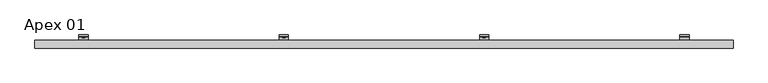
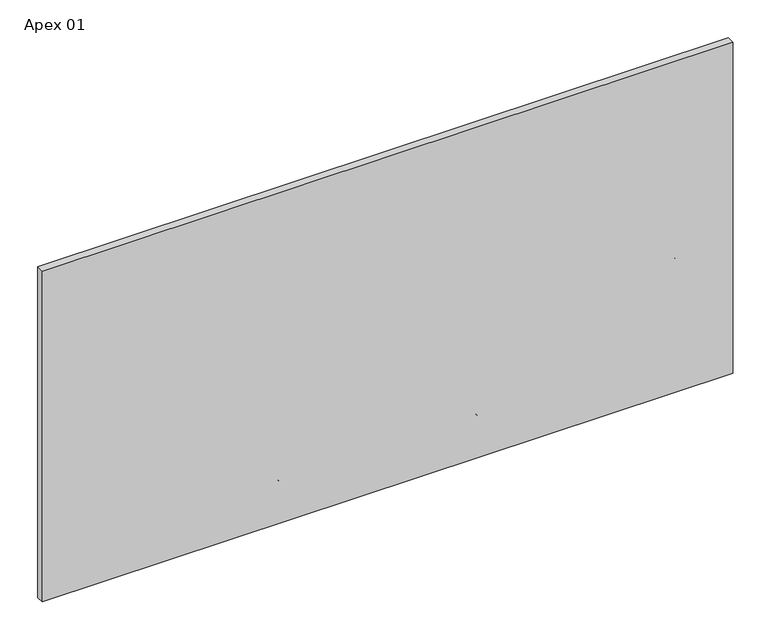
"""IFC4 building model written with IfcOpenShell, lengths in millimetres: plate geometry, Single-Panel-Perforated-Amico_Architectural : Apex 01."""

from ifc_helpers import new_model, si_unit, point, frame, frame_2d, origin, place, context, project, spatial, polyline, circle_curve, trimmed, segment, composite_curve, outline, extrude, source, transform, mapped, element, save
from ifc_brep_helpers import plane_surface, cylinder_surface, revolved_surface, advanced_brep


def apex_01_1a7e8140(model_context):
    return source(origin(), model_context, "Body", "SolidModel", [
        advanced_brep(
        [(1238.25, -47.625, 561.2468868), (1238.25, -51.2819443, 553.5848544), (1238.25, -89.5163624, 526.8128266), (1238.25, -92.9330442, 530.2295084), (1238.25, -54.3526876, 557.2437649), (1238.25, -52.4002, 561.2469577), (1238.25, -52.4002, 595.439572), (1238.25, -47.625, 595.439572), (1276.35, -47.625, 561.2468868), (1276.35, -47.625, 595.439572), (1276.35, -52.4002, 595.439572), (1276.35, -52.4002, 561.2469577), (1276.35, -54.3526876, 557.2437649), (1276.35, -92.9330442, 530.2295084), (1276.35, -89.5163624, 526.8128266), (1276.35, -51.2819443, 553.5848544), (1264.0411889, -52.4002, 581.3943558), (1264.0411889, -52.4002, 575.0443558), (1247.8133287, -52.4002, 575.0443558), (1247.8133287, -52.4002, 581.3943558), (1264.0411889, -47.625, 575.0443558), (1264.0411889, -47.625, 581.3943558), (1247.8133287, -47.625, 581.3943558), (1247.8133287, -47.625, 575.0443558)],
        [
            (0, 1, circle_curve(frame((1238.25, -57.4802202, 561.2468868), z_axis=(-1.0, 0.0, 0.0), x_axis=(0.0, -1.0, 0.0)), 9.8552202)),
            (1, 2),
            (2, 3),
            (3, 4),
            (4, 5, circle_curve(frame((1238.25, -57.4803246, 561.2469577), z_axis=(1.0, 0.0, 0.0), x_axis=(0.0, -1.0, 0.0)), 5.0801246)),
            (5, 6),
            (6, 7),
            (7, 0),
            (8, 9),
            (9, 10),
            (10, 11),
            (11, 12, circle_curve(frame((1276.35, -57.4803246, 561.2469577), z_axis=(-1.0, 0.0, 0.0), x_axis=(0.0, -1.0, 0.0)), 5.0801246)),
            (12, 13),
            (13, 14),
            (14, 15),
            (15, 8, circle_curve(frame((1276.35, -57.4802202, 561.2468868), z_axis=(1.0, 0.0, 0.0), x_axis=(0.0, -1.0, 0.0)), 9.8552202)),
            (4, 12),
            (11, 5),
            (10, 6),
            (16, 17, circle_curve(frame((1264.0411889, -52.4002, 578.2193558), z_axis=(0.0, 1.0, 0.0), x_axis=(0.0, 0.0, -1.0)), 3.175)),
            (17, 18),
            (18, 19, circle_curve(frame((1247.8133287, -52.4002, 578.2193558), z_axis=(0.0, 1.0, 0.0), x_axis=(0.0, 0.0, -1.0)), 3.175)),
            (19, 16),
            (9, 7),
            (8, 0),
            (20, 21, circle_curve(frame((1264.0411889, -47.625, 578.2193558), z_axis=(0.0, -1.0, 0.0), x_axis=(0.0, 0.0, -1.0)), 3.175)),
            (21, 22),
            (22, 23, circle_curve(frame((1247.8133287, -47.625, 578.2193558), z_axis=(0.0, -1.0, 0.0), x_axis=(0.0, 0.0, -1.0)), 3.175)),
            (23, 20),
            (15, 1),
            (20, 17),
            (16, 21),
            (19, 22),
            (18, 23),
            (14, 2),
            (13, 3),
        ],
        [
            plane_surface(frame((1238.25, -67.3354404, 561.2468868), z_axis=(-1.0, 0.0, 0.0), x_axis=(0.0, 0.0, 1.0))),
            plane_surface(frame((1276.35, -67.3354404, 561.2468868), z_axis=(1.0, 0.0, 0.0), x_axis=(0.0, 0.0, -1.0))),
            revolved_surface(polyline([(1276.35, -62.5604492, 561.2469577), (1238.25, -62.5604492, 561.2469577)]), (1276.35, -57.4803246, 561.2469577), (1.0, 0.0, 0.0)),
            plane_surface(frame((1238.25, -52.4002, 561.2469577), z_axis=(0.0, -1.0, 0.0), x_axis=(1.0, 0.0, 0.0))),
            plane_surface(frame((1238.25, -52.4002, 595.439572), z_axis=(0.0, 0.0, 1.0), x_axis=(1.0, 0.0, 0.0))),
            plane_surface(frame((1238.25, -47.625, 595.439572), z_axis=(0.0, 1.0, 6.99569853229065e-12), x_axis=(1.0, 0.0, 0.0))),
            cylinder_surface(frame((1276.35, -57.4802202, 561.2468868), z_axis=(-1.0, 0.0, 0.0), x_axis=(0.0, -1.0, 0.0)), 9.8552202),
            revolved_surface(polyline([(1264.0411889, -52.4002, 575.0443558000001), (1264.0411889, -47.625, 575.0443558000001)]), (1264.0411889, -25.6669948, 578.2193558), (0.0, -1.0, 0.0)),
            plane_surface(frame((1264.0411889, -86.677982, 581.3943558), z_axis=(0.0, 0.0, -1.0), x_axis=(0.0, 1.0, 0.0))),
            revolved_surface(polyline([(1247.8133287, -52.4002, 575.0443558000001), (1247.8133287, -47.625, 575.0443558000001)]), (1247.8133287, -25.6669948, 578.2193558), (0.0, -1.0, 0.0)),
            plane_surface(frame((1247.8133287, -86.677982, 575.0443558), z_axis=(-2.7237733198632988e-11, 0.0, 1.0), x_axis=(0.0, 1.0, 0.0))),
            plane_surface(frame((1238.25, -51.2819443, 553.5848544), z_axis=(0.0, 0.5735764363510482, -0.8191520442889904), x_axis=(1.0, 0.0, 0.0))),
            plane_surface(frame((1238.25, -89.5163624, 526.8128266), z_axis=(0.0, -0.7071067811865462, -0.7071067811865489), x_axis=(1.0, 0.0, 0.0))),
            plane_surface(frame((1238.25, -92.9330442, 530.2295084), z_axis=(0.0, -0.5735764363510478, 0.8191520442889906), x_axis=(1.0, 0.0, 0.0))),
        ],
        [
            (0, [[1, 2, 3, 4, 5, 6, 7, 8]]),
            (1, [[9, 10, 11, 12, 13, 14, 15, 16]]),
            (2, [[-5, 17, -12, 18]]),
            (3, [[-6, -18, -11, 19], [20, 21, 22, 23]]),
            (4, [[-7, -19, -10, 24]]),
            (5, [[-8, -24, -9, 25], [26, 27, 28, 29]]),
            (6, [[-1, -25, -16, 30]]),
            (7, [[31, -20, 32, -26]]),
            (8, [[-32, -23, 33, -27]]),
            (9, [[-33, -22, 34, -28]]),
            (10, [[-31, -29, -34, -21]]),
            (11, [[-2, -30, -15, 35]]),
            (12, [[-3, -35, -14, 36]]),
            (13, [[-4, -36, -13, -17]]),
        ],
    ),
        extrude(outline(polyline([(578.3961989, 414.0820034), (574.0504864, 416.5910017), (574.0504864, 421.6089983), (578.3961989, 424.1179966), (582.7419114, 421.6089983), (582.7419114, 416.5910017), (578.3961989, 414.0820034)])), frame((0.0, -58.7607779, 0.0), z_axis=(0.0, 1.0, 0.0), x_axis=(0.0, 0.0, 1.0)), (0.0, 0.0, 1.0), 11.1357779),
        extrude(outline(composite_curve([segment(trimmed(circle_curve(frame_2d((578.4895059, 419.1)), 6.35), [point((578.4895059, 425.45))], [point((578.4895059, 412.75))], False, "CARTESIAN"), True, "CONTINUOUS"), segment(trimmed(circle_curve(frame_2d((578.4895059, 419.1)), 6.35), [point((578.4895059, 412.75))], [point((578.4895059, 425.45))], False, "CARTESIAN"), True, "CONTINUOUS")], self_intersect=False)), frame((0.0, -57.0817743, 0.0), z_axis=(0.0, 1.0, 0.0), x_axis=(0.0, 0.0, 1.0)), (0.0, 0.0, 1.0), 9.4567743),
        advanced_brep(
        [(400.05, -47.625, 561.2468868), (400.05, -51.2819443, 553.5848544), (400.05, -89.5163624, 526.8128266), (400.05, -92.9330442, 530.2295084), (400.05, -54.3526876, 557.2437649), (400.05, -52.4002, 561.2469577), (400.05, -52.4002, 595.439572), (400.05, -47.625, 595.439572), (438.15, -47.625, 561.2468868), (438.15, -47.625, 595.439572), (438.15, -52.4002, 595.439572), (438.15, -52.4002, 561.2469577), (438.15, -54.3526876, 557.2437649), (438.15, -92.9330442, 530.2295084), (438.15, -89.5163624, 526.8128266), (438.15, -51.2819443, 553.5848544), (425.8411889, -52.4002, 581.3943558), (425.8411889, -52.4002, 575.0443558), (409.6133287, -52.4002, 575.0443558), (409.6133287, -52.4002, 581.3943558), (425.8411889, -47.625, 575.0443558), (425.8411889, -47.625, 581.3943558), (409.6133287, -47.625, 581.3943558), (409.6133287, -47.625, 575.0443558)],
        [
            (0, 1, circle_curve(frame((400.05, -57.4802202, 561.2468868), z_axis=(-1.0, 0.0, 0.0), x_axis=(0.0, -1.0, 0.0)), 9.8552202)),
            (1, 2),
            (2, 3),
            (3, 4),
            (4, 5, circle_curve(frame((400.05, -57.4803246, 561.2469577), z_axis=(1.0, 0.0, 0.0), x_axis=(0.0, -1.0, 0.0)), 5.0801246)),
            (5, 6),
            (6, 7),
            (7, 0),
            (8, 9),
            (9, 10),
            (10, 11),
            (11, 12, circle_curve(frame((438.15, -57.4803246, 561.2469577), z_axis=(-1.0, 0.0, 0.0), x_axis=(0.0, -1.0, 0.0)), 5.0801246)),
            (12, 13),
            (13, 14),
            (14, 15),
            (15, 8, circle_curve(frame((438.15, -57.4802202, 561.2468868), z_axis=(1.0, 0.0, 0.0), x_axis=(0.0, -1.0, 0.0)), 9.8552202)),
            (4, 12),
            (11, 5),
            (10, 6),
            (16, 17, circle_curve(frame((425.8411889, -52.4002, 578.2193558), z_axis=(0.0, 1.0, 0.0), x_axis=(0.0, 0.0, -1.0)), 3.175)),
            (17, 18),
            (18, 19, circle_curve(frame((409.6133287, -52.4002, 578.2193558), z_axis=(0.0, 1.0, 0.0), x_axis=(0.0, 0.0, -1.0)), 3.175)),
            (19, 16),
            (9, 7),
            (8, 0),
            (20, 21, circle_curve(frame((425.8411889, -47.625, 578.2193558), z_axis=(0.0, -1.0, 0.0), x_axis=(0.0, 0.0, -1.0)), 3.175)),
            (21, 22),
            (22, 23, circle_curve(frame((409.6133287, -47.625, 578.2193558), z_axis=(0.0, -1.0, 0.0), x_axis=(0.0, 0.0, -1.0)), 3.175)),
            (23, 20),
            (15, 1),
            (20, 17),
            (16, 21),
            (19, 22),
            (18, 23),
            (14, 2),
            (13, 3),
        ],
        [
            plane_surface(frame((400.05, -67.3354404, 561.2468868), z_axis=(-1.0, 0.0, 0.0), x_axis=(0.0, 0.0, 1.0))),
            plane_surface(frame((438.15, -67.3354404, 561.2468868), z_axis=(1.0, 0.0, 0.0), x_axis=(0.0, 0.0, -1.0))),
            revolved_surface(polyline([(438.15, -62.5604492, 561.2469577), (400.05, -62.5604492, 561.2469577)]), (438.15, -57.4803246, 561.2469577), (1.0, 0.0, 0.0)),
            plane_surface(frame((400.05, -52.4002, 561.2469577), z_axis=(0.0, -1.0, 0.0), x_axis=(1.0, 0.0, 0.0))),
            plane_surface(frame((400.05, -52.4002, 595.439572), z_axis=(0.0, 0.0, 1.0), x_axis=(1.0, 0.0, 0.0))),
            plane_surface(frame((400.05, -47.625, 595.439572), z_axis=(0.0, 1.0, 6.99569853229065e-12), x_axis=(1.0, 0.0, 0.0))),
            cylinder_surface(frame((438.15, -57.4802202, 561.2468868), z_axis=(-1.0, 0.0, 0.0), x_axis=(0.0, -1.0, 0.0)), 9.8552202),
            revolved_surface(polyline([(425.8411889, -52.4002, 575.0443558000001), (425.8411889, -47.625, 575.0443558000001)]), (425.8411889, -25.6669948, 578.2193558), (0.0, -1.0, 0.0)),
            plane_surface(frame((425.8411889, -86.677982, 581.3943558), z_axis=(0.0, 0.0, -1.0), x_axis=(0.0, 1.0, 0.0))),
            revolved_surface(polyline([(409.6133287, -52.4002, 575.0443558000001), (409.6133287, -47.625, 575.0443558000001)]), (409.6133287, -25.6669948, 578.2193558), (0.0, -1.0, 0.0)),
            plane_surface(frame((409.6133287, -86.677982, 575.0443558), z_axis=(-2.7237733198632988e-11, 0.0, 1.0), x_axis=(0.0, 1.0, 0.0))),
            plane_surface(frame((400.05, -51.2819443, 553.5848544), z_axis=(0.0, 0.5735764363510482, -0.8191520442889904), x_axis=(1.0, 0.0, 0.0))),
            plane_surface(frame((400.05, -89.5163624, 526.8128266), z_axis=(0.0, -0.7071067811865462, -0.7071067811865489), x_axis=(1.0, 0.0, 0.0))),
            plane_surface(frame((400.05, -92.9330442, 530.2295084), z_axis=(0.0, -0.5735764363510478, 0.8191520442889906), x_axis=(1.0, 0.0, 0.0))),
        ],
        [
            (0, [[1, 2, 3, 4, 5, 6, 7, 8]]),
            (1, [[9, 10, 11, 12, 13, 14, 15, 16]]),
            (2, [[-5, 17, -12, 18]]),
            (3, [[-6, -18, -11, 19], [20, 21, 22, 23]]),
            (4, [[-7, -19, -10, 24]]),
            (5, [[-8, -24, -9, 25], [26, 27, 28, 29]]),
            (6, [[-1, -25, -16, 30]]),
            (7, [[31, -20, 32, -26]]),
            (8, [[-32, -23, 33, -27]]),
            (9, [[-33, -22, 34, -28]]),
            (10, [[-31, -29, -34, -21]]),
            (11, [[-2, -30, -15, 35]]),
            (12, [[-3, -35, -14, 36]]),
            (13, [[-4, -36, -13, -17]]),
        ],
    ),
        extrude(outline(polyline([(578.3961989, -424.1179966), (574.0504864, -421.6089983), (574.0504864, -416.5910017), (578.3961989, -414.0820034), (582.7419114, -416.5910017), (582.7419114, -421.6089983), (578.3961989, -424.1179966)])), frame((0.0, -58.7607779, 0.0), z_axis=(0.0, 1.0, 0.0), x_axis=(0.0, 0.0, 1.0)), (0.0, 0.0, 1.0), 11.1357779),
        extrude(outline(composite_curve([segment(trimmed(circle_curve(frame_2d((578.4895059, -419.1)), 6.35), [point((578.4895059, -412.75))], [point((578.4895059, -425.45))], False, "CARTESIAN"), True, "CONTINUOUS"), segment(trimmed(circle_curve(frame_2d((578.4895059, -419.1)), 6.35), [point((578.4895059, -425.45))], [point((578.4895059, -412.75))], False, "CARTESIAN"), True, "CONTINUOUS")], self_intersect=False)), frame((0.0, -57.0817743, 0.0), z_axis=(0.0, 1.0, 0.0), x_axis=(0.0, 0.0, 1.0)), (0.0, 0.0, 1.0), 9.4567743),
        advanced_brep(
        [(-438.15, -47.625, 561.2468868), (-438.15, -51.2819443, 553.5848544), (-438.15, -89.5163624, 526.8128266), (-438.15, -92.9330442, 530.2295084), (-438.15, -54.3526876, 557.2437649), (-438.15, -52.4002, 561.2469577), (-438.15, -52.4002, 595.439572), (-438.15, -47.625, 595.439572), (-400.05, -47.625, 561.2468868), (-400.05, -47.625, 595.439572), (-400.05, -52.4002, 595.439572), (-400.05, -52.4002, 561.2469577), (-400.05, -54.3526876, 557.2437649), (-400.05, -92.9330442, 530.2295084), (-400.05, -89.5163624, 526.8128266), (-400.05, -51.2819443, 553.5848544), (-412.3588111, -52.4002, 581.3943558), (-412.3588111, -52.4002, 575.0443558), (-428.5866713, -52.4002, 575.0443558), (-428.5866713, -52.4002, 581.3943558), (-412.3588111, -47.625, 575.0443558), (-412.3588111, -47.625, 581.3943558), (-428.5866713, -47.625, 581.3943558), (-428.5866713, -47.625, 575.0443558)],
        [
            (0, 1, circle_curve(frame((-438.15, -57.4802202, 561.2468868), z_axis=(-1.0, 0.0, 0.0), x_axis=(0.0, -1.0, 0.0)), 9.8552202)),
            (1, 2),
            (2, 3),
            (3, 4),
            (4, 5, circle_curve(frame((-438.15, -57.4803246, 561.2469577), z_axis=(1.0, 0.0, 0.0), x_axis=(0.0, -1.0, 0.0)), 5.0801246)),
            (5, 6),
            (6, 7),
            (7, 0),
            (8, 9),
            (9, 10),
            (10, 11),
            (11, 12, circle_curve(frame((-400.05, -57.4803246, 561.2469577), z_axis=(-1.0, 0.0, 0.0), x_axis=(0.0, -1.0, 0.0)), 5.0801246)),
            (12, 13),
            (13, 14),
            (14, 15),
            (15, 8, circle_curve(frame((-400.05, -57.4802202, 561.2468868), z_axis=(1.0, 0.0, 0.0), x_axis=(0.0, -1.0, 0.0)), 9.8552202)),
            (4, 12),
            (11, 5),
            (10, 6),
            (16, 17, circle_curve(frame((-412.3588111, -52.4002, 578.2193558), z_axis=(0.0, 1.0, 0.0), x_axis=(0.0, 0.0, -1.0)), 3.175)),
            (17, 18),
            (18, 19, circle_curve(frame((-428.5866713, -52.4002, 578.2193558), z_axis=(0.0, 1.0, 0.0), x_axis=(0.0, 0.0, -1.0)), 3.175)),
            (19, 16),
            (9, 7),
            (8, 0),
            (20, 21, circle_curve(frame((-412.3588111, -47.625, 578.2193558), z_axis=(0.0, -1.0, 0.0), x_axis=(0.0, 0.0, -1.0)), 3.175)),
            (21, 22),
            (22, 23, circle_curve(frame((-428.5866713, -47.625, 578.2193558), z_axis=(0.0, -1.0, 0.0), x_axis=(0.0, 0.0, -1.0)), 3.175)),
            (23, 20),
            (15, 1),
            (20, 17),
            (16, 21),
            (19, 22),
            (18, 23),
            (14, 2),
            (13, 3),
        ],
        [
            plane_surface(frame((-438.15, -67.3354404, 561.2468868), z_axis=(-1.0, 0.0, 0.0), x_axis=(0.0, 0.0, 1.0))),
            plane_surface(frame((-400.05, -67.3354404, 561.2468868), z_axis=(1.0, 0.0, 0.0), x_axis=(0.0, 0.0, -1.0))),
            revolved_surface(polyline([(-400.05, -62.5604492, 561.2469577), (-438.15, -62.5604492, 561.2469577)]), (-400.05, -57.4803246, 561.2469577), (1.0, 0.0, 0.0)),
            plane_surface(frame((-438.15, -52.4002, 561.2469577), z_axis=(0.0, -1.0, 0.0), x_axis=(1.0, 0.0, 0.0))),
            plane_surface(frame((-438.15, -52.4002, 595.439572), z_axis=(0.0, 0.0, 1.0), x_axis=(1.0, 0.0, 0.0))),
            plane_surface(frame((-438.15, -47.625, 595.439572), z_axis=(0.0, 1.0, 6.99569853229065e-12), x_axis=(1.0, 0.0, 0.0))),
            cylinder_surface(frame((-400.05, -57.4802202, 561.2468868), z_axis=(-1.0, 0.0, 0.0), x_axis=(0.0, -1.0, 0.0)), 9.8552202),
            revolved_surface(polyline([(-412.3588111, -52.4002, 575.0443558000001), (-412.3588111, -47.625, 575.0443558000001)]), (-412.3588111, -25.6669948, 578.2193558), (0.0, -1.0, 0.0)),
            plane_surface(frame((-412.3588111, -86.677982, 581.3943558), z_axis=(0.0, 0.0, -1.0), x_axis=(0.0, 1.0, 0.0))),
            revolved_surface(polyline([(-428.5866713, -52.4002, 575.0443558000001), (-428.5866713, -47.625, 575.0443558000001)]), (-428.5866713, -25.6669948, 578.2193558), (0.0, -1.0, 0.0)),
            plane_surface(frame((-428.5866713, -86.677982, 575.0443558), z_axis=(-2.7237733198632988e-11, 0.0, 1.0), x_axis=(0.0, 1.0, 0.0))),
            plane_surface(frame((-438.15, -51.2819443, 553.5848544), z_axis=(0.0, 0.5735764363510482, -0.8191520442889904), x_axis=(1.0, 0.0, 0.0))),
            plane_surface(frame((-438.15, -89.5163624, 526.8128266), z_axis=(0.0, -0.7071067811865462, -0.7071067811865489), x_axis=(1.0, 0.0, 0.0))),
            plane_surface(frame((-438.15, -92.9330442, 530.2295084), z_axis=(0.0, -0.5735764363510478, 0.8191520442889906), x_axis=(1.0, 0.0, 0.0))),
        ],
        [
            (0, [[1, 2, 3, 4, 5, 6, 7, 8]]),
            (1, [[9, 10, 11, 12, 13, 14, 15, 16]]),
            (2, [[-5, 17, -12, 18]]),
            (3, [[-6, -18, -11, 19], [20, 21, 22, 23]]),
            (4, [[-7, -19, -10, 24]]),
            (5, [[-8, -24, -9, 25], [26, 27, 28, 29]]),
            (6, [[-1, -25, -16, 30]]),
            (7, [[31, -20, 32, -26]]),
            (8, [[-32, -23, 33, -27]]),
            (9, [[-33, -22, 34, -28]]),
            (10, [[-31, -29, -34, -21]]),
            (11, [[-2, -30, -15, 35]]),
            (12, [[-3, -35, -14, 36]]),
            (13, [[-4, -36, -13, -17]]),
        ],
    ),
        extrude(outline(polyline([(578.3961989, -1262.3179966), (574.0504864, -1259.8089983), (574.0504864, -1254.7910017), (578.3961989, -1252.2820034), (582.7419114, -1254.7910017), (582.7419114, -1259.8089983), (578.3961989, -1262.3179966)])), frame((0.0, -58.7607779, 0.0), z_axis=(0.0, 1.0, 0.0), x_axis=(0.0, 0.0, 1.0)), (0.0, 0.0, 1.0), 11.1357779),
        extrude(outline(composite_curve([segment(trimmed(circle_curve(frame_2d((578.4895059, -1257.3)), 6.35), [point((578.4895059, -1250.95))], [point((578.4895059, -1263.65))], False, "CARTESIAN"), True, "CONTINUOUS"), segment(trimmed(circle_curve(frame_2d((578.4895059, -1257.3)), 6.35), [point((578.4895059, -1263.65))], [point((578.4895059, -1250.95))], False, "CARTESIAN"), True, "CONTINUOUS")], self_intersect=False)), frame((0.0, -57.0817743, 0.0), z_axis=(0.0, 1.0, 0.0), x_axis=(0.0, 0.0, 1.0)), (0.0, 0.0, 1.0), 9.4567743),
        advanced_brep(
        [(-1276.35, -47.625, 561.2468868), (-1276.35, -51.2819443, 553.5848544), (-1276.35, -89.5163624, 526.8128266), (-1276.35, -92.9330442, 530.2295084), (-1276.35, -54.3526876, 557.2437649), (-1276.35, -52.4002, 561.2469577), (-1276.35, -52.4002, 595.439572), (-1276.35, -47.625, 595.439572), (-1238.25, -47.625, 561.2468868), (-1238.25, -47.625, 595.439572), (-1238.25, -52.4002, 595.439572), (-1238.25, -52.4002, 561.2469577), (-1238.25, -54.3526876, 557.2437649), (-1238.25, -92.9330442, 530.2295084), (-1238.25, -89.5163624, 526.8128266), (-1238.25, -51.2819443, 553.5848544), (-1250.5588111, -52.4002, 581.3943558), (-1250.5588111, -52.4002, 575.0443558), (-1266.7866713, -52.4002, 575.0443558), (-1266.7866713, -52.4002, 581.3943558), (-1250.5588111, -47.625, 575.0443558), (-1250.5588111, -47.625, 581.3943558), (-1266.7866713, -47.625, 581.3943558), (-1266.7866713, -47.625, 575.0443558)],
        [
            (0, 1, circle_curve(frame((-1276.35, -57.4802202, 561.2468868), z_axis=(-1.0, 0.0, 0.0), x_axis=(0.0, -1.0, 0.0)), 9.8552202)),
            (1, 2),
            (2, 3),
            (3, 4),
            (4, 5, circle_curve(frame((-1276.35, -57.4803246, 561.2469577), z_axis=(1.0, 0.0, 0.0), x_axis=(0.0, -1.0, 0.0)), 5.0801246)),
            (5, 6),
            (6, 7),
            (7, 0),
            (8, 9),
            (9, 10),
            (10, 11),
            (11, 12, circle_curve(frame((-1238.25, -57.4803246, 561.2469577), z_axis=(-1.0, 0.0, 0.0), x_axis=(0.0, -1.0, 0.0)), 5.0801246)),
            (12, 13),
            (13, 14),
            (14, 15),
            (15, 8, circle_curve(frame((-1238.25, -57.4802202, 561.2468868), z_axis=(1.0, 0.0, 0.0), x_axis=(0.0, -1.0, 0.0)), 9.8552202)),
            (4, 12),
            (11, 5),
            (10, 6),
            (16, 17, circle_curve(frame((-1250.5588111, -52.4002, 578.2193558), z_axis=(0.0, 1.0, 0.0), x_axis=(0.0, 0.0, -1.0)), 3.175)),
            (17, 18),
            (18, 19, circle_curve(frame((-1266.7866713, -52.4002, 578.2193558), z_axis=(0.0, 1.0, 0.0), x_axis=(0.0, 0.0, -1.0)), 3.175)),
            (19, 16),
            (9, 7),
            (8, 0),
            (20, 21, circle_curve(frame((-1250.5588111, -47.625, 578.2193558), z_axis=(0.0, -1.0, 0.0), x_axis=(0.0, 0.0, -1.0)), 3.175)),
            (21, 22),
            (22, 23, circle_curve(frame((-1266.7866713, -47.625, 578.2193558), z_axis=(0.0, -1.0, 0.0), x_axis=(0.0, 0.0, -1.0)), 3.175)),
            (23, 20),
            (15, 1),
            (20, 17),
            (16, 21),
            (19, 22),
            (18, 23),
            (14, 2),
            (13, 3),
        ],
        [
            plane_surface(frame((-1276.35, -67.3354404, 561.2468868), z_axis=(-1.0, 0.0, 0.0), x_axis=(0.0, 0.0, 1.0))),
            plane_surface(frame((-1238.25, -67.3354404, 561.2468868), z_axis=(1.0, 0.0, 0.0), x_axis=(0.0, 0.0, -1.0))),
            revolved_surface(polyline([(-1238.25, -62.5604492, 561.2469577), (-1276.35, -62.5604492, 561.2469577)]), (-1238.25, -57.4803246, 561.2469577), (1.0, 0.0, 0.0)),
            plane_surface(frame((-1276.35, -52.4002, 561.2469577), z_axis=(0.0, -1.0, 0.0), x_axis=(1.0, 0.0, 0.0))),
            plane_surface(frame((-1276.35, -52.4002, 595.439572), z_axis=(0.0, 0.0, 1.0), x_axis=(1.0, 0.0, 0.0))),
            plane_surface(frame((-1276.35, -47.625, 595.439572), z_axis=(0.0, 1.0, 6.99569853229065e-12), x_axis=(1.0, 0.0, 0.0))),
            cylinder_surface(frame((-1238.25, -57.4802202, 561.2468868), z_axis=(-1.0, 0.0, 0.0), x_axis=(0.0, -1.0, 0.0)), 9.8552202),
            revolved_surface(polyline([(-1250.5588111, -52.4002, 575.0443558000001), (-1250.5588111, -47.625, 575.0443558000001)]), (-1250.5588111, -25.6669948, 578.2193558), (0.0, -1.0, 0.0)),
            plane_surface(frame((-1250.5588111, -86.677982, 581.3943558), z_axis=(0.0, 0.0, -1.0), x_axis=(0.0, 1.0, 0.0))),
            revolved_surface(polyline([(-1266.7866713, -52.4002, 575.0443558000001), (-1266.7866713, -47.625, 575.0443558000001)]), (-1266.7866713, -25.6669948, 578.2193558), (0.0, -1.0, 0.0)),
            plane_surface(frame((-1266.7866713, -86.677982, 575.0443558), z_axis=(-2.7237733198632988e-11, 0.0, 1.0), x_axis=(0.0, 1.0, 0.0))),
            plane_surface(frame((-1276.35, -51.2819443, 553.5848544), z_axis=(0.0, 0.5735764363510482, -0.8191520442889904), x_axis=(1.0, 0.0, 0.0))),
            plane_surface(frame((-1276.35, -89.5163624, 526.8128266), z_axis=(0.0, -0.7071067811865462, -0.7071067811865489), x_axis=(1.0, 0.0, 0.0))),
            plane_surface(frame((-1276.35, -92.9330442, 530.2295084), z_axis=(0.0, -0.5735764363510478, 0.8191520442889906), x_axis=(1.0, 0.0, 0.0))),
        ],
        [
            (0, [[1, 2, 3, 4, 5, 6, 7, 8]]),
            (1, [[9, 10, 11, 12, 13, 14, 15, 16]]),
            (2, [[-5, 17, -12, 18]]),
            (3, [[-6, -18, -11, 19], [20, 21, 22, 23]]),
            (4, [[-7, -19, -10, 24]]),
            (5, [[-8, -24, -9, 25], [26, 27, 28, 29]]),
            (6, [[-1, -25, -16, 30]]),
            (7, [[31, -20, 32, -26]]),
            (8, [[-32, -23, 33, -27]]),
            (9, [[-33, -22, 34, -28]]),
            (10, [[-31, -29, -34, -21]]),
            (11, [[-2, -30, -15, 35]]),
            (12, [[-3, -35, -14, 36]]),
            (13, [[-4, -36, -13, -17]]),
        ],
    ),
        extrude(outline(polyline([(169.8795323, 1252.2820034), (165.5338197, 1254.7910017), (165.5338197, 1259.8089983), (169.8795323, 1262.3179966), (174.2252448, 1259.8089983), (174.2252448, 1254.7910017), (169.8795323, 1252.2820034)])), frame((0.0, -58.7607779, 0.0), z_axis=(0.0, 1.0, 0.0), x_axis=(0.0, 0.0, 1.0)), (0.0, 0.0, 1.0), 11.1357779),
        extrude(outline(composite_curve([segment(trimmed(circle_curve(frame_2d((169.9728392, 1257.3)), 6.35), [point((169.9728392, 1263.65))], [point((169.9728392, 1250.95))], False, "CARTESIAN"), True, "CONTINUOUS"), segment(trimmed(circle_curve(frame_2d((169.9728392, 1257.3)), 6.35), [point((169.9728392, 1250.95))], [point((169.9728392, 1263.65))], False, "CARTESIAN"), True, "CONTINUOUS")], self_intersect=False)), frame((0.0, -57.0817743, 0.0), z_axis=(0.0, 1.0, 0.0), x_axis=(0.0, 0.0, 1.0)), (0.0, 0.0, 1.0), 9.4567743),
        advanced_brep(
        [(1238.25, -47.625, 152.7302202), (1238.25, -51.2819443, 145.0681877), (1238.25, -89.5163624, 118.29616), (1238.25, -92.9330442, 121.7128418), (1238.25, -54.3526876, 148.7270983), (1238.25, -52.4002, 152.7302911), (1238.25, -52.4002, 186.9229053), (1238.25, -47.625, 186.9229053), (1276.35, -47.625, 152.7302202), (1276.35, -47.625, 186.9229053), (1276.35, -52.4002, 186.9229053), (1276.35, -52.4002, 152.7302911), (1276.35, -54.3526876, 148.7270983), (1276.35, -92.9330442, 121.7128418), (1276.35, -89.5163624, 118.29616), (1276.35, -51.2819443, 145.0681877), (1264.0411889, -52.4002, 172.8776891), (1264.0411889, -52.4002, 166.5276891), (1247.8133287, -52.4002, 166.5276891), (1247.8133287, -52.4002, 172.8776891), (1264.0411889, -47.625, 166.5276891), (1264.0411889, -47.625, 172.8776891), (1247.8133287, -47.625, 172.8776891), (1247.8133287, -47.625, 166.5276891)],
        [
            (0, 1, circle_curve(frame((1238.25, -57.4802202, 152.7302202), z_axis=(-1.0, 0.0, 0.0), x_axis=(0.0, -1.0, 0.0)), 9.8552202)),
            (1, 2),
            (2, 3),
            (3, 4),
            (4, 5, circle_curve(frame((1238.25, -57.4803246, 152.7302911), z_axis=(1.0, 0.0, 0.0), x_axis=(0.0, -1.0, 0.0)), 5.0801246)),
            (5, 6),
            (6, 7),
            (7, 0),
            (8, 9),
            (9, 10),
            (10, 11),
            (11, 12, circle_curve(frame((1276.35, -57.4803246, 152.7302911), z_axis=(-1.0, 0.0, 0.0), x_axis=(0.0, -1.0, 0.0)), 5.0801246)),
            (12, 13),
            (13, 14),
            (14, 15),
            (15, 8, circle_curve(frame((1276.35, -57.4802202, 152.7302202), z_axis=(1.0, 0.0, 0.0), x_axis=(0.0, -1.0, 0.0)), 9.8552202)),
            (4, 12),
            (11, 5),
            (10, 6),
            (16, 17, circle_curve(frame((1264.0411889, -52.4002, 169.7026891), z_axis=(0.0, 1.0, 0.0), x_axis=(0.0, 0.0, -1.0)), 3.175)),
            (17, 18),
            (18, 19, circle_curve(frame((1247.8133287, -52.4002, 169.7026891), z_axis=(0.0, 1.0, 0.0), x_axis=(0.0, 0.0, -1.0)), 3.175)),
            (19, 16),
            (9, 7),
            (8, 0),
            (20, 21, circle_curve(frame((1264.0411889, -47.625, 169.7026891), z_axis=(0.0, -1.0, 0.0), x_axis=(0.0, 0.0, -1.0)), 3.175)),
            (21, 22),
            (22, 23, circle_curve(frame((1247.8133287, -47.625, 169.7026891), z_axis=(0.0, -1.0, 0.0), x_axis=(0.0, 0.0, -1.0)), 3.175)),
            (23, 20),
            (15, 1),
            (20, 17),
            (16, 21),
            (19, 22),
            (18, 23),
            (14, 2),
            (13, 3),
        ],
        [
            plane_surface(frame((1238.25, -67.3354404, 152.7302202), z_axis=(-1.0, 0.0, 0.0), x_axis=(0.0, 0.0, 1.0))),
            plane_surface(frame((1276.35, -67.3354404, 152.7302202), z_axis=(1.0, 0.0, 0.0), x_axis=(0.0, 0.0, -1.0))),
            revolved_surface(polyline([(1276.35, -62.5604492, 152.7302911), (1238.25, -62.5604492, 152.7302911)]), (1276.35, -57.4803246, 152.7302911), (1.0, 0.0, 0.0)),
            plane_surface(frame((1238.25, -52.4002, 152.7302911), z_axis=(0.0, -1.0, 0.0), x_axis=(1.0, 0.0, 0.0))),
            plane_surface(frame((1238.25, -52.4002, 186.9229053), z_axis=(0.0, 0.0, 1.0), x_axis=(1.0, 0.0, 0.0))),
            plane_surface(frame((1238.25, -47.625, 186.9229053), z_axis=(0.0, 1.0, 6.99569853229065e-12), x_axis=(1.0, 0.0, 0.0))),
            cylinder_surface(frame((1276.35, -57.4802202, 152.7302202), z_axis=(-1.0, 0.0, 0.0), x_axis=(0.0, -1.0, 0.0)), 9.8552202),
            revolved_surface(polyline([(1264.0411889, -52.4002, 166.52768909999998), (1264.0411889, -47.625, 166.52768909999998)]), (1264.0411889, -25.6669948, 169.7026891), (0.0, -1.0, 0.0)),
            plane_surface(frame((1264.0411889, -86.677982, 172.8776891), z_axis=(0.0, 0.0, -1.0), x_axis=(0.0, 1.0, 0.0))),
            revolved_surface(polyline([(1247.8133287, -52.4002, 166.52768909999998), (1247.8133287, -47.625, 166.52768909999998)]), (1247.8133287, -25.6669948, 169.7026891), (0.0, -1.0, 0.0)),
            plane_surface(frame((1247.8133287, -86.677982, 166.5276891), z_axis=(-2.723774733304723e-11, 0.0, 1.0), x_axis=(0.0, 1.0, 0.0))),
            plane_surface(frame((1238.25, -51.2819443, 145.0681877), z_axis=(0.0, 0.5735764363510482, -0.8191520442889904), x_axis=(1.0, 0.0, 0.0))),
            plane_surface(frame((1238.25, -89.5163624, 118.29616), z_axis=(0.0, -0.7071067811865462, -0.7071067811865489), x_axis=(1.0, 0.0, 0.0))),
            plane_surface(frame((1238.25, -92.9330442, 121.7128418), z_axis=(0.0, -0.5735764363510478, 0.8191520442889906), x_axis=(1.0, 0.0, 0.0))),
        ],
        [
            (0, [[1, 2, 3, 4, 5, 6, 7, 8]]),
            (1, [[9, 10, 11, 12, 13, 14, 15, 16]]),
            (2, [[-5, 17, -12, 18]]),
            (3, [[-6, -18, -11, 19], [20, 21, 22, 23]]),
            (4, [[-7, -19, -10, 24]]),
            (5, [[-8, -24, -9, 25], [26, 27, 28, 29]]),
            (6, [[-1, -25, -16, 30]]),
            (7, [[31, -20, 32, -26]]),
            (8, [[-32, -23, 33, -27]]),
            (9, [[-33, -22, 34, -28]]),
            (10, [[-31, -29, -34, -21]]),
            (11, [[-2, -30, -15, 35]]),
            (12, [[-3, -35, -14, 36]]),
            (13, [[-4, -36, -13, -17]]),
        ],
    ),
        extrude(outline(polyline([(169.8795323, 414.0820034), (165.5338197, 416.5910017), (165.5338197, 421.6089983), (169.8795323, 424.1179966), (174.2252448, 421.6089983), (174.2252448, 416.5910017), (169.8795323, 414.0820034)])), frame((0.0, -58.7607779, 0.0), z_axis=(0.0, 1.0, 0.0), x_axis=(0.0, 0.0, 1.0)), (0.0, 0.0, 1.0), 11.1357779),
        extrude(outline(composite_curve([segment(trimmed(circle_curve(frame_2d((169.9728392, 419.1)), 6.35), [point((169.9728392, 425.45))], [point((169.9728392, 412.75))], False, "CARTESIAN"), True, "CONTINUOUS"), segment(trimmed(circle_curve(frame_2d((169.9728392, 419.1)), 6.35), [point((169.9728392, 412.75))], [point((169.9728392, 425.45))], False, "CARTESIAN"), True, "CONTINUOUS")], self_intersect=False)), frame((0.0, -57.0817743, 0.0), z_axis=(0.0, 1.0, 0.0), x_axis=(0.0, 0.0, 1.0)), (0.0, 0.0, 1.0), 9.4567743),
        advanced_brep(
        [(400.05, -47.625, 152.7302202), (400.05, -51.2819443, 145.0681877), (400.05, -89.5163624, 118.29616), (400.05, -92.9330442, 121.7128418), (400.05, -54.3526876, 148.7270983), (400.05, -52.4002, 152.7302911), (400.05, -52.4002, 186.9229053), (400.05, -47.625, 186.9229053), (438.15, -47.625, 152.7302202), (438.15, -47.625, 186.9229053), (438.15, -52.4002, 186.9229053), (438.15, -52.4002, 152.7302911), (438.15, -54.3526876, 148.7270983), (438.15, -92.9330442, 121.7128418), (438.15, -89.5163624, 118.29616), (438.15, -51.2819443, 145.0681877), (425.8411889, -52.4002, 172.8776891), (425.8411889, -52.4002, 166.5276891), (409.6133287, -52.4002, 166.5276891), (409.6133287, -52.4002, 172.8776891), (425.8411889, -47.625, 166.5276891), (425.8411889, -47.625, 172.8776891), (409.6133287, -47.625, 172.8776891), (409.6133287, -47.625, 166.5276891)],
        [
            (0, 1, circle_curve(frame((400.05, -57.4802202, 152.7302202), z_axis=(-1.0, 0.0, 0.0), x_axis=(0.0, -1.0, 0.0)), 9.8552202)),
            (1, 2),
            (2, 3),
            (3, 4),
            (4, 5, circle_curve(frame((400.05, -57.4803246, 152.7302911), z_axis=(1.0, 0.0, 0.0), x_axis=(0.0, -1.0, 0.0)), 5.0801246)),
            (5, 6),
            (6, 7),
            (7, 0),
            (8, 9),
            (9, 10),
            (10, 11),
            (11, 12, circle_curve(frame((438.15, -57.4803246, 152.7302911), z_axis=(-1.0, 0.0, 0.0), x_axis=(0.0, -1.0, 0.0)), 5.0801246)),
            (12, 13),
            (13, 14),
            (14, 15),
            (15, 8, circle_curve(frame((438.15, -57.4802202, 152.7302202), z_axis=(1.0, 0.0, 0.0), x_axis=(0.0, -1.0, 0.0)), 9.8552202)),
            (4, 12),
            (11, 5),
            (10, 6),
            (16, 17, circle_curve(frame((425.8411889, -52.4002, 169.7026891), z_axis=(0.0, 1.0, 0.0), x_axis=(0.0, 0.0, -1.0)), 3.175)),
            (17, 18),
            (18, 19, circle_curve(frame((409.6133287, -52.4002, 169.7026891), z_axis=(0.0, 1.0, 0.0), x_axis=(0.0, 0.0, -1.0)), 3.175)),
            (19, 16),
            (9, 7),
            (8, 0),
            (20, 21, circle_curve(frame((425.8411889, -47.625, 169.7026891), z_axis=(0.0, -1.0, 0.0), x_axis=(0.0, 0.0, -1.0)), 3.175)),
            (21, 22),
            (22, 23, circle_curve(frame((409.6133287, -47.625, 169.7026891), z_axis=(0.0, -1.0, 0.0), x_axis=(0.0, 0.0, -1.0)), 3.175)),
            (23, 20),
            (15, 1),
            (20, 17),
            (16, 21),
            (19, 22),
            (18, 23),
            (14, 2),
            (13, 3),
        ],
        [
            plane_surface(frame((400.05, -67.3354404, 152.7302202), z_axis=(-1.0, 0.0, 0.0), x_axis=(0.0, 0.0, 1.0))),
            plane_surface(frame((438.15, -67.3354404, 152.7302202), z_axis=(1.0, 0.0, 0.0), x_axis=(0.0, 0.0, -1.0))),
            revolved_surface(polyline([(438.15, -62.5604492, 152.7302911), (400.05, -62.5604492, 152.7302911)]), (438.15, -57.4803246, 152.7302911), (1.0, 0.0, 0.0)),
            plane_surface(frame((400.05, -52.4002, 152.7302911), z_axis=(0.0, -1.0, 0.0), x_axis=(1.0, 0.0, 0.0))),
            plane_surface(frame((400.05, -52.4002, 186.9229053), z_axis=(0.0, 0.0, 1.0), x_axis=(1.0, 0.0, 0.0))),
            plane_surface(frame((400.05, -47.625, 186.9229053), z_axis=(0.0, 1.0, 6.99569853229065e-12), x_axis=(1.0, 0.0, 0.0))),
            cylinder_surface(frame((438.15, -57.4802202, 152.7302202), z_axis=(-1.0, 0.0, 0.0), x_axis=(0.0, -1.0, 0.0)), 9.8552202),
            revolved_surface(polyline([(425.8411889, -52.4002, 166.52768909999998), (425.8411889, -47.625, 166.52768909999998)]), (425.8411889, -25.6669948, 169.7026891), (0.0, -1.0, 0.0)),
            plane_surface(frame((425.8411889, -86.677982, 172.8776891), z_axis=(0.0, 0.0, -1.0), x_axis=(0.0, 1.0, 0.0))),
            revolved_surface(polyline([(409.6133287, -52.4002, 166.52768909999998), (409.6133287, -47.625, 166.52768909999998)]), (409.6133287, -25.6669948, 169.7026891), (0.0, -1.0, 0.0)),
            plane_surface(frame((409.6133287, -86.677982, 166.5276891), z_axis=(-2.723774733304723e-11, 0.0, 1.0), x_axis=(0.0, 1.0, 0.0))),
            plane_surface(frame((400.05, -51.2819443, 145.0681877), z_axis=(0.0, 0.5735764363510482, -0.8191520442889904), x_axis=(1.0, 0.0, 0.0))),
            plane_surface(frame((400.05, -89.5163624, 118.29616), z_axis=(0.0, -0.7071067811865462, -0.7071067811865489), x_axis=(1.0, 0.0, 0.0))),
            plane_surface(frame((400.05, -92.9330442, 121.7128418), z_axis=(0.0, -0.5735764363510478, 0.8191520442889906), x_axis=(1.0, 0.0, 0.0))),
        ],
        [
            (0, [[1, 2, 3, 4, 5, 6, 7, 8]]),
            (1, [[9, 10, 11, 12, 13, 14, 15, 16]]),
            (2, [[-5, 17, -12, 18]]),
            (3, [[-6, -18, -11, 19], [20, 21, 22, 23]]),
            (4, [[-7, -19, -10, 24]]),
            (5, [[-8, -24, -9, 25], [26, 27, 28, 29]]),
            (6, [[-1, -25, -16, 30]]),
            (7, [[31, -20, 32, -26]]),
            (8, [[-32, -23, 33, -27]]),
            (9, [[-33, -22, 34, -28]]),
            (10, [[-31, -29, -34, -21]]),
            (11, [[-2, -30, -15, 35]]),
            (12, [[-3, -35, -14, 36]]),
            (13, [[-4, -36, -13, -17]]),
        ],
    ),
        extrude(outline(polyline([(169.8795323, -424.1179966), (165.5338197, -421.6089983), (165.5338197, -416.5910017), (169.8795323, -414.0820034), (174.2252448, -416.5910017), (174.2252448, -421.6089983), (169.8795323, -424.1179966)])), frame((0.0, -58.7607779, 0.0), z_axis=(0.0, 1.0, 0.0), x_axis=(0.0, 0.0, 1.0)), (0.0, 0.0, 1.0), 11.1357779),
        extrude(outline(composite_curve([segment(trimmed(circle_curve(frame_2d((169.9728392, -419.1)), 6.35), [point((169.9728392, -412.75))], [point((169.9728392, -425.45))], False, "CARTESIAN"), True, "CONTINUOUS"), segment(trimmed(circle_curve(frame_2d((169.9728392, -419.1)), 6.35), [point((169.9728392, -425.45))], [point((169.9728392, -412.75))], False, "CARTESIAN"), True, "CONTINUOUS")], self_intersect=False)), frame((0.0, -57.0817743, 0.0), z_axis=(0.0, 1.0, 0.0), x_axis=(0.0, 0.0, 1.0)), (0.0, 0.0, 1.0), 9.4567743),
        advanced_brep(
        [(-438.15, -47.625, 152.7302202), (-438.15, -51.2819443, 145.0681877), (-438.15, -89.5163624, 118.29616), (-438.15, -92.9330442, 121.7128418), (-438.15, -54.3526876, 148.7270983), (-438.15, -52.4002, 152.7302911), (-438.15, -52.4002, 186.9229053), (-438.15, -47.625, 186.9229053), (-400.05, -47.625, 152.7302202), (-400.05, -47.625, 186.9229053), (-400.05, -52.4002, 186.9229053), (-400.05, -52.4002, 152.7302911), (-400.05, -54.3526876, 148.7270983), (-400.05, -92.9330442, 121.7128418), (-400.05, -89.5163624, 118.29616), (-400.05, -51.2819443, 145.0681877), (-412.3588111, -52.4002, 172.8776891), (-412.3588111, -52.4002, 166.5276891), (-428.5866713, -52.4002, 166.5276891), (-428.5866713, -52.4002, 172.8776891), (-412.3588111, -47.625, 166.5276891), (-412.3588111, -47.625, 172.8776891), (-428.5866713, -47.625, 172.8776891), (-428.5866713, -47.625, 166.5276891)],
        [
            (0, 1, circle_curve(frame((-438.15, -57.4802202, 152.7302202), z_axis=(-1.0, 0.0, 0.0), x_axis=(0.0, -1.0, 0.0)), 9.8552202)),
            (1, 2),
            (2, 3),
            (3, 4),
            (4, 5, circle_curve(frame((-438.15, -57.4803246, 152.7302911), z_axis=(1.0, 0.0, 0.0), x_axis=(0.0, -1.0, 0.0)), 5.0801246)),
            (5, 6),
            (6, 7),
            (7, 0),
            (8, 9),
            (9, 10),
            (10, 11),
            (11, 12, circle_curve(frame((-400.05, -57.4803246, 152.7302911), z_axis=(-1.0, 0.0, 0.0), x_axis=(0.0, -1.0, 0.0)), 5.0801246)),
            (12, 13),
            (13, 14),
            (14, 15),
            (15, 8, circle_curve(frame((-400.05, -57.4802202, 152.7302202), z_axis=(1.0, 0.0, 0.0), x_axis=(0.0, -1.0, 0.0)), 9.8552202)),
            (4, 12),
            (11, 5),
            (10, 6),
            (16, 17, circle_curve(frame((-412.3588111, -52.4002, 169.7026891), z_axis=(0.0, 1.0, 0.0), x_axis=(0.0, 0.0, -1.0)), 3.175)),
            (17, 18),
            (18, 19, circle_curve(frame((-428.5866713, -52.4002, 169.7026891), z_axis=(0.0, 1.0, 0.0), x_axis=(0.0, 0.0, -1.0)), 3.175)),
            (19, 16),
            (9, 7),
            (8, 0),
            (20, 21, circle_curve(frame((-412.3588111, -47.625, 169.7026891), z_axis=(0.0, -1.0, 0.0), x_axis=(0.0, 0.0, -1.0)), 3.175)),
            (21, 22),
            (22, 23, circle_curve(frame((-428.5866713, -47.625, 169.7026891), z_axis=(0.0, -1.0, 0.0), x_axis=(0.0, 0.0, -1.0)), 3.175)),
            (23, 20),
            (15, 1),
            (20, 17),
            (16, 21),
            (19, 22),
            (18, 23),
            (14, 2),
            (13, 3),
        ],
        [
            plane_surface(frame((-438.15, -67.3354404, 152.7302202), z_axis=(-1.0, 0.0, 0.0), x_axis=(0.0, 0.0, 1.0))),
            plane_surface(frame((-400.05, -67.3354404, 152.7302202), z_axis=(1.0, 0.0, 0.0), x_axis=(0.0, 0.0, -1.0))),
            revolved_surface(polyline([(-400.05, -62.5604492, 152.7302911), (-438.15, -62.5604492, 152.7302911)]), (-400.05, -57.4803246, 152.7302911), (1.0, 0.0, 0.0)),
            plane_surface(frame((-438.15, -52.4002, 152.7302911), z_axis=(0.0, -1.0, 0.0), x_axis=(1.0, 0.0, 0.0))),
            plane_surface(frame((-438.15, -52.4002, 186.9229053), z_axis=(0.0, 0.0, 1.0), x_axis=(1.0, 0.0, 0.0))),
            plane_surface(frame((-438.15, -47.625, 186.9229053), z_axis=(0.0, 1.0, 6.99569853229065e-12), x_axis=(1.0, 0.0, 0.0))),
            cylinder_surface(frame((-400.05, -57.4802202, 152.7302202), z_axis=(-1.0, 0.0, 0.0), x_axis=(0.0, -1.0, 0.0)), 9.8552202),
            revolved_surface(polyline([(-412.3588111, -52.4002, 166.52768909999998), (-412.3588111, -47.625, 166.52768909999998)]), (-412.3588111, -25.6669948, 169.7026891), (0.0, -1.0, 0.0)),
            plane_surface(frame((-412.3588111, -86.677982, 172.8776891), z_axis=(0.0, 0.0, -1.0), x_axis=(0.0, 1.0, 0.0))),
            revolved_surface(polyline([(-428.5866713, -52.4002, 166.52768909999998), (-428.5866713, -47.625, 166.52768909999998)]), (-428.5866713, -25.6669948, 169.7026891), (0.0, -1.0, 0.0)),
            plane_surface(frame((-428.5866713, -86.677982, 166.5276891), z_axis=(-2.723774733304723e-11, 0.0, 1.0), x_axis=(0.0, 1.0, 0.0))),
            plane_surface(frame((-438.15, -51.2819443, 145.0681877), z_axis=(0.0, 0.5735764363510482, -0.8191520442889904), x_axis=(1.0, 0.0, 0.0))),
            plane_surface(frame((-438.15, -89.5163624, 118.29616), z_axis=(0.0, -0.7071067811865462, -0.7071067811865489), x_axis=(1.0, 0.0, 0.0))),
            plane_surface(frame((-438.15, -92.9330442, 121.7128418), z_axis=(0.0, -0.5735764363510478, 0.8191520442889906), x_axis=(1.0, 0.0, 0.0))),
        ],
        [
            (0, [[1, 2, 3, 4, 5, 6, 7, 8]]),
            (1, [[9, 10, 11, 12, 13, 14, 15, 16]]),
            (2, [[-5, 17, -12, 18]]),
            (3, [[-6, -18, -11, 19], [20, 21, 22, 23]]),
            (4, [[-7, -19, -10, 24]]),
            (5, [[-8, -24, -9, 25], [26, 27, 28, 29]]),
            (6, [[-1, -25, -16, 30]]),
            (7, [[31, -20, 32, -26]]),
            (8, [[-32, -23, 33, -27]]),
            (9, [[-33, -22, 34, -28]]),
            (10, [[-31, -29, -34, -21]]),
            (11, [[-2, -30, -15, 35]]),
            (12, [[-3, -35, -14, 36]]),
            (13, [[-4, -36, -13, -17]]),
        ],
    ),
        extrude(outline(polyline([(169.8795323, -1262.3179966), (165.5338197, -1259.8089983), (165.5338197, -1254.7910017), (169.8795323, -1252.2820034), (174.2252448, -1254.7910017), (174.2252448, -1259.8089983), (169.8795323, -1262.3179966)])), frame((0.0, -58.7607779, 0.0), z_axis=(0.0, 1.0, 0.0), x_axis=(0.0, 0.0, 1.0)), (0.0, 0.0, 1.0), 11.1357779),
        extrude(outline(composite_curve([segment(trimmed(circle_curve(frame_2d((169.9728392, -1257.3)), 6.35), [point((169.9728392, -1250.95))], [point((169.9728392, -1263.65))], False, "CARTESIAN"), True, "CONTINUOUS"), segment(trimmed(circle_curve(frame_2d((169.9728392, -1257.3)), 6.35), [point((169.9728392, -1263.65))], [point((169.9728392, -1250.95))], False, "CARTESIAN"), True, "CONTINUOUS")], self_intersect=False)), frame((0.0, -57.0817743, 0.0), z_axis=(0.0, 1.0, 0.0), x_axis=(0.0, 0.0, 1.0)), (0.0, 0.0, 1.0), 9.4567743),
        advanced_brep(
        [(-1276.35, -47.625, 152.7302202), (-1276.35, -51.2819443, 145.0681877), (-1276.35, -89.5163624, 118.29616), (-1276.35, -92.9330442, 121.7128418), (-1276.35, -54.3526876, 148.7270983), (-1276.35, -52.4002, 152.7302911), (-1276.35, -52.4002, 186.9229053), (-1276.35, -47.625, 186.9229053), (-1238.25, -47.625, 152.7302202), (-1238.25, -47.625, 186.9229053), (-1238.25, -52.4002, 186.9229053), (-1238.25, -52.4002, 152.7302911), (-1238.25, -54.3526876, 148.7270983), (-1238.25, -92.9330442, 121.7128418), (-1238.25, -89.5163624, 118.29616), (-1238.25, -51.2819443, 145.0681877), (-1250.5588111, -52.4002, 172.8776891), (-1250.5588111, -52.4002, 166.5276891), (-1266.7866713, -52.4002, 166.5276891), (-1266.7866713, -52.4002, 172.8776891), (-1250.5588111, -47.625, 166.5276891), (-1250.5588111, -47.625, 172.8776891), (-1266.7866713, -47.625, 172.8776891), (-1266.7866713, -47.625, 166.5276891)],
        [
            (0, 1, circle_curve(frame((-1276.35, -57.4802202, 152.7302202), z_axis=(-1.0, 0.0, 0.0), x_axis=(0.0, -1.0, 0.0)), 9.8552202)),
            (1, 2),
            (2, 3),
            (3, 4),
            (4, 5, circle_curve(frame((-1276.35, -57.4803246, 152.7302911), z_axis=(1.0, 0.0, 0.0), x_axis=(0.0, -1.0, 0.0)), 5.0801246)),
            (5, 6),
            (6, 7),
            (7, 0),
            (8, 9),
            (9, 10),
            (10, 11),
            (11, 12, circle_curve(frame((-1238.25, -57.4803246, 152.7302911), z_axis=(-1.0, 0.0, 0.0), x_axis=(0.0, -1.0, 0.0)), 5.0801246)),
            (12, 13),
            (13, 14),
            (14, 15),
            (15, 8, circle_curve(frame((-1238.25, -57.4802202, 152.7302202), z_axis=(1.0, 0.0, 0.0), x_axis=(0.0, -1.0, 0.0)), 9.8552202)),
            (4, 12),
            (11, 5),
            (10, 6),
            (16, 17, circle_curve(frame((-1250.5588111, -52.4002, 169.7026891), z_axis=(0.0, 1.0, 0.0), x_axis=(0.0, 0.0, -1.0)), 3.175)),
            (17, 18),
            (18, 19, circle_curve(frame((-1266.7866713, -52.4002, 169.7026891), z_axis=(0.0, 1.0, 0.0), x_axis=(0.0, 0.0, -1.0)), 3.175)),
            (19, 16),
            (9, 7),
            (8, 0),
            (20, 21, circle_curve(frame((-1250.5588111, -47.625, 169.7026891), z_axis=(0.0, -1.0, 0.0), x_axis=(0.0, 0.0, -1.0)), 3.175)),
            (21, 22),
            (22, 23, circle_curve(frame((-1266.7866713, -47.625, 169.7026891), z_axis=(0.0, -1.0, 0.0), x_axis=(0.0, 0.0, -1.0)), 3.175)),
            (23, 20),
            (15, 1),
            (20, 17),
            (16, 21),
            (19, 22),
            (18, 23),
            (14, 2),
            (13, 3),
        ],
        [
            plane_surface(frame((-1276.35, -67.3354404, 152.7302202), z_axis=(-1.0, 0.0, 0.0), x_axis=(0.0, 0.0, 1.0))),
            plane_surface(frame((-1238.25, -67.3354404, 152.7302202), z_axis=(1.0, 0.0, 0.0), x_axis=(0.0, 0.0, -1.0))),
            revolved_surface(polyline([(-1238.25, -62.5604492, 152.7302911), (-1276.35, -62.5604492, 152.7302911)]), (-1238.25, -57.4803246, 152.7302911), (1.0, 0.0, 0.0)),
            plane_surface(frame((-1276.35, -52.4002, 152.7302911), z_axis=(0.0, -1.0, 0.0), x_axis=(1.0, 0.0, 0.0))),
            plane_surface(frame((-1276.35, -52.4002, 186.9229053), z_axis=(0.0, 0.0, 1.0), x_axis=(1.0, 0.0, 0.0))),
            plane_surface(frame((-1276.35, -47.625, 186.9229053), z_axis=(0.0, 1.0, 6.99569853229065e-12), x_axis=(1.0, 0.0, 0.0))),
            cylinder_surface(frame((-1238.25, -57.4802202, 152.7302202), z_axis=(-1.0, 0.0, 0.0), x_axis=(0.0, -1.0, 0.0)), 9.8552202),
            revolved_surface(polyline([(-1250.5588111, -52.4002, 166.52768909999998), (-1250.5588111, -47.625, 166.52768909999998)]), (-1250.5588111, -25.6669948, 169.7026891), (0.0, -1.0, 0.0)),
            plane_surface(frame((-1250.5588111, -86.677982, 172.8776891), z_axis=(0.0, 0.0, -1.0), x_axis=(0.0, 1.0, 0.0))),
            revolved_surface(polyline([(-1266.7866713, -52.4002, 166.52768909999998), (-1266.7866713, -47.625, 166.52768909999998)]), (-1266.7866713, -25.6669948, 169.7026891), (0.0, -1.0, 0.0)),
            plane_surface(frame((-1266.7866713, -86.677982, 166.5276891), z_axis=(-2.723774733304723e-11, 0.0, 1.0), x_axis=(0.0, 1.0, 0.0))),
            plane_surface(frame((-1276.35, -51.2819443, 145.0681877), z_axis=(0.0, 0.5735764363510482, -0.8191520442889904), x_axis=(1.0, 0.0, 0.0))),
            plane_surface(frame((-1276.35, -89.5163624, 118.29616), z_axis=(0.0, -0.7071067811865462, -0.7071067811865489), x_axis=(1.0, 0.0, 0.0))),
            plane_surface(frame((-1276.35, -92.9330442, 121.7128418), z_axis=(0.0, -0.5735764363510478, 0.8191520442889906), x_axis=(1.0, 0.0, 0.0))),
        ],
        [
            (0, [[1, 2, 3, 4, 5, 6, 7, 8]]),
            (1, [[9, 10, 11, 12, 13, 14, 15, 16]]),
            (2, [[-5, 17, -12, 18]]),
            (3, [[-6, -18, -11, 19], [20, 21, 22, 23]]),
            (4, [[-7, -19, -10, 24]]),
            (5, [[-8, -24, -9, 25], [26, 27, 28, 29]]),
            (6, [[-1, -25, -16, 30]]),
            (7, [[31, -20, 32, -26]]),
            (8, [[-32, -23, 33, -27]]),
            (9, [[-33, -22, 34, -28]]),
            (10, [[-31, -29, -34, -21]]),
            (11, [[-2, -30, -15, 35]]),
            (12, [[-3, -35, -14, 36]]),
            (13, [[-4, -36, -13, -17]]),
        ],
    ),
        extrude(outline(polyline([(1460.5, -102.4064478), (-1460.5, -102.4064478), (-1460.5, -69.9147678), (1460.5, -69.9147678), (1460.5, -102.4064478)])), frame((0.0, 0.0, 15.875), z_axis=(0.0, 0.0, 1.0), x_axis=(1.0, 0.0, 0.0)), (0.0, 0.0, 1.0), 1479.55),
    ])


if __name__ == "__main__":
    model = new_model("IFC4")
    model_context = context("Model", 3, world=origin())
    ifc_project = project(units=[si_unit("LENGTHUNIT", "METRE", prefix="MILLI")], contexts=[model_context])
    site = spatial("IfcSite", under=ifc_project)
    building = spatial("IfcBuilding", under=site)
    placement = place(None, origin())
    apex_01_shape = apex_01_1a7e8140(model_context)
    element("IfcPlate", 1, ObjectType="Single-Panel-Perforated-Amico_Architectural : Apex 01", at=placement, inside=building, context=model_context, shape_type="MappedRepresentation", body=[
        mapped(apex_01_shape, transform((0.0, 0.0, 0.0), x_axis=(1.0, 0.0, 0.0), y_axis=(0.0, 1.0, 0.0), z_axis=(0.0, 0.0, 1.0))),
    ])
    save(model, "model.ifc")
